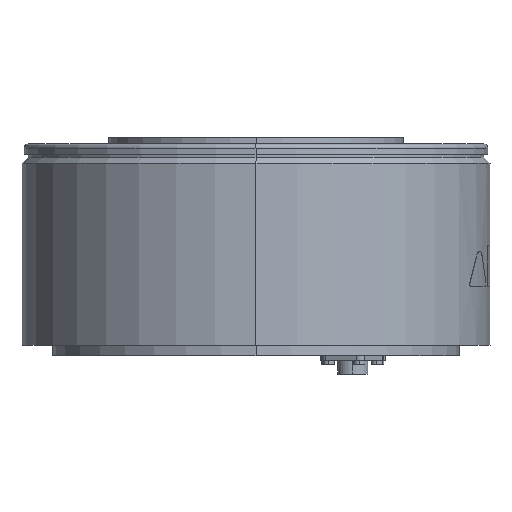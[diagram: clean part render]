
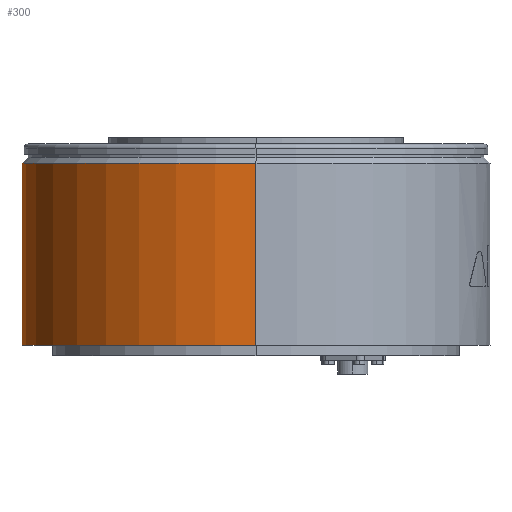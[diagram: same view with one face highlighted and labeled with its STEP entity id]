
A CAD part, left-side view. The second image highlights one B-rep face of the part: STEP entity #300.
In plain terms, the highlighted cylindrical face has radius 115 mm (diameter 230 mm), a partial arc.
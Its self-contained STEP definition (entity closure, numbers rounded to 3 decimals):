
#229 = EDGE_LOOP ( 'NONE', ( #1757, #1758, #1759, #1760 ) ) ;
#300 = ADVANCED_FACE ( 'NONE', ( #4176 ), #4185, .T. ) ;
#1757 = ORIENTED_EDGE ( 'NONE', *, *, #3112, .T. ) ;
#1758 = ORIENTED_EDGE ( 'NONE', *, *, #3111, .T. ) ;
#1759 = ORIENTED_EDGE ( 'NONE', *, *, #3102, .F. ) ;
#1760 = ORIENTED_EDGE ( 'NONE', *, *, #3113, .F. ) ;
#3102 = EDGE_CURVE ( 'NONE', #10737, #10736, #9190, .T. ) ;
#3111 = EDGE_CURVE ( 'NONE', #10735, #10736, #9201, .T. ) ;
#3112 = EDGE_CURVE ( 'NONE', #10734, #10735, #9205, .T. ) ;
#3113 = EDGE_CURVE ( 'NONE', #10734, #10737, #9198, .T. ) ;
#4013 = DIRECTION ( 'NONE',  ( -1., 0., 0. ) ) ;
#4017 = DIRECTION ( 'NONE',  ( 0., 0., -1. ) ) ;
#4018 = CARTESIAN_POINT ( 'NONE',  ( 0., 0., 0. ) ) ;
#4055 = AXIS2_PLACEMENT_3D ( 'NONE', #4018, #4017, #4013 ) ;
#4176 = FACE_OUTER_BOUND ( 'NONE', #229, .T. ) ;
#4185 = CYLINDRICAL_SURFACE ( 'NONE', #4055, 115. ) ;
#8232 = AXIS2_PLACEMENT_3D ( 'NONE', #9155, #9156, #9157 ) ;
#8250 = AXIS2_PLACEMENT_3D ( 'NONE', #9444, #9445, #9446 ) ;
#9155 = CARTESIAN_POINT ( 'NONE',  ( 0., 0., 5. ) ) ;
#9156 = DIRECTION ( 'NONE',  ( 0., 0., -1. ) ) ;
#9157 = DIRECTION ( 'NONE',  ( -1., 0., 0. ) ) ;
#9172 = CARTESIAN_POINT ( 'NONE',  ( 115., 0., 0. ) ) ;
#9190 = CIRCLE ( 'NONE', #8232, 115. ) ;
#9195 = VECTOR ( 'NONE', #9443, 1000. ) ;
#9198 = LINE ( 'NONE', #9447, #9200 ) ;
#9200 = VECTOR ( 'NONE', #9448, 1000. ) ;
#9201 = LINE ( 'NONE', #9172, #9195 ) ;
#9205 = CIRCLE ( 'NONE', #8250, 115. ) ;
#9443 = DIRECTION ( 'NONE',  ( 0., 0., -1. ) ) ;
#9444 = CARTESIAN_POINT ( 'NONE',  ( 0., 0., 94.5 ) ) ;
#9445 = DIRECTION ( 'NONE',  ( 0., 0., -1. ) ) ;
#9446 = DIRECTION ( 'NONE',  ( -1., 0., 0. ) ) ;
#9447 = CARTESIAN_POINT ( 'NONE',  ( -115., 0., 0. ) ) ;
#9448 = DIRECTION ( 'NONE',  ( 0., 0., -1. ) ) ;
#10359 = CARTESIAN_POINT ( 'NONE',  ( -115., 0., 94.5 ) ) ;
#10360 = CARTESIAN_POINT ( 'NONE',  ( 115., 0., 94.5 ) ) ;
#10361 = CARTESIAN_POINT ( 'NONE',  ( 115., 0., 5. ) ) ;
#10362 = CARTESIAN_POINT ( 'NONE',  ( -115., 0., 5. ) ) ;
#10734 = VERTEX_POINT ( 'NONE', #10359 ) ;
#10735 = VERTEX_POINT ( 'NONE', #10360 ) ;
#10736 = VERTEX_POINT ( 'NONE', #10361 ) ;
#10737 = VERTEX_POINT ( 'NONE', #10362 ) ;
